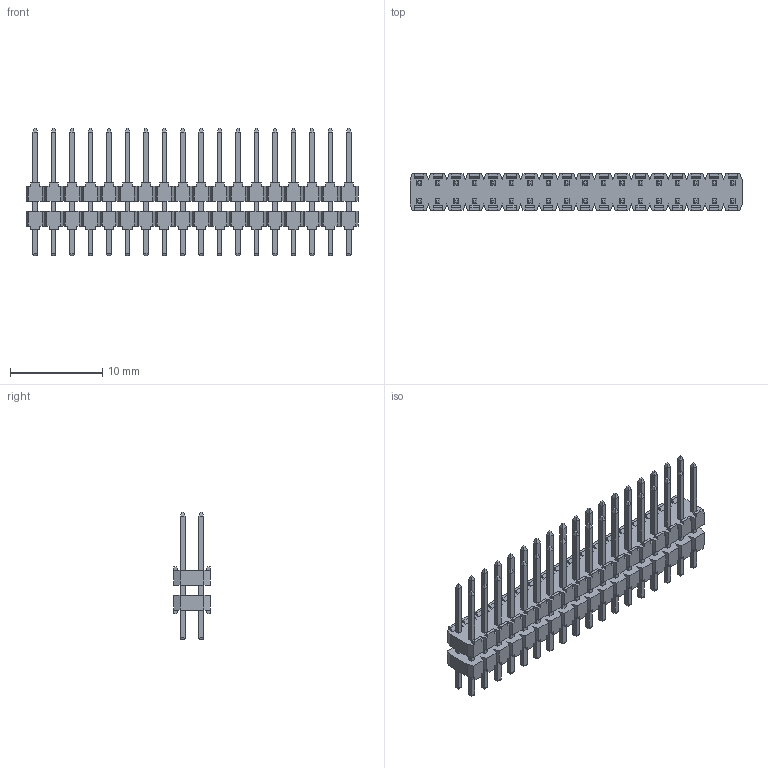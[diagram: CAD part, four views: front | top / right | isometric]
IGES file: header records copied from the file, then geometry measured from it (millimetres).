
Global section: file name: N:\GOLF_VI_2mm_UGII\9514XX_806XX06_AR\951436-8061106-AR.igs; native system: NX V3.0; preprocessor: UGS NX IGES V4.0; date: 20070314.101512; units: millimetre
Bounding box: 36 x 4 x 13.8 mm (x, y, z)
Surface area: 1701.6 mm2 (no closed solid volume)
Topology: 0 solids, 0 shells, 1304 faces, 6793 edges, 6793 vertices
Faces by surface type: bspline 1304
